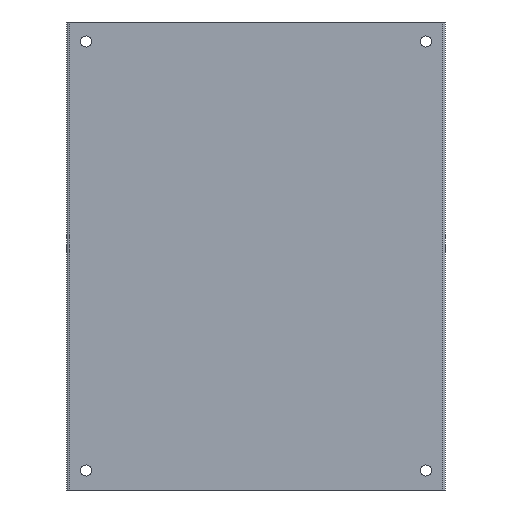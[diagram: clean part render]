
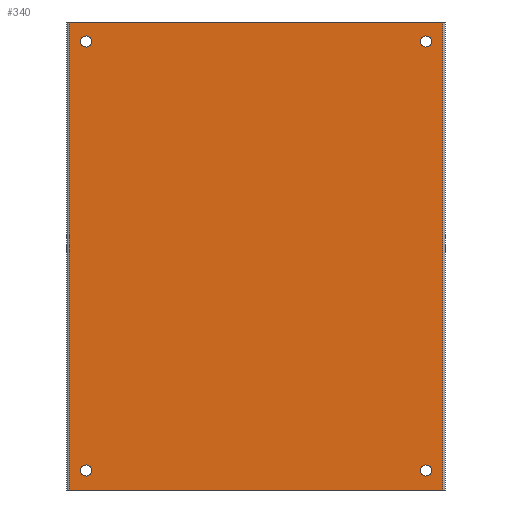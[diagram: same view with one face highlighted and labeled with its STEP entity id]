
A CAD part, front view. The second image highlights one B-rep face of the part: STEP entity #340.
In plain terms, the highlighted planar face has unit normal (0, -1, 0).
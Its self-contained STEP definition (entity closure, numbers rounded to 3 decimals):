
#40=CIRCLE('',#374,6.35);
#41=CIRCLE('',#375,6.35);
#42=CIRCLE('',#376,6.35);
#43=CIRCLE('',#377,6.35);
#72=ORIENTED_EDGE('',*,*,#160,.F.);
#73=ORIENTED_EDGE('',*,*,#161,.F.);
#74=ORIENTED_EDGE('',*,*,#162,.F.);
#75=ORIENTED_EDGE('',*,*,#163,.F.);
#76=ORIENTED_EDGE('',*,*,#154,.T.);
#77=ORIENTED_EDGE('',*,*,#164,.T.);
#78=ORIENTED_EDGE('',*,*,#136,.T.);
#79=ORIENTED_EDGE('',*,*,#165,.T.);
#136=EDGE_CURVE('',#180,#181,#212,.T.);
#154=EDGE_CURVE('',#199,#198,#224,.T.);
#160=EDGE_CURVE('',#204,#204,#40,.T.);
#161=EDGE_CURVE('',#205,#205,#41,.T.);
#162=EDGE_CURVE('',#206,#206,#42,.T.);
#163=EDGE_CURVE('',#207,#207,#43,.T.);
#164=EDGE_CURVE('',#198,#180,#228,.T.);
#165=EDGE_CURVE('',#181,#199,#229,.T.);
#180=VERTEX_POINT('',#501);
#181=VERTEX_POINT('',#502);
#198=VERTEX_POINT('',#537);
#199=VERTEX_POINT('',#539);
#204=VERTEX_POINT('',#551);
#205=VERTEX_POINT('',#553);
#206=VERTEX_POINT('',#555);
#207=VERTEX_POINT('',#557);
#212=LINE('',#500,#240);
#224=LINE('',#538,#252);
#228=LINE('',#558,#256);
#229=LINE('',#559,#257);
#240=VECTOR('',#402,1000.);
#252=VECTOR('',#428,1000.);
#256=VECTOR('',#446,1000.);
#257=VECTOR('',#447,1000.);
#270=EDGE_LOOP('',(#72));
#271=EDGE_LOOP('',(#73));
#272=EDGE_LOOP('',(#74));
#273=EDGE_LOOP('',(#75));
#274=EDGE_LOOP('',(#76,#77,#78,#79));
#300=FACE_BOUND('',#270,.T.);
#301=FACE_BOUND('',#271,.T.);
#302=FACE_BOUND('',#272,.T.);
#303=FACE_BOUND('',#273,.T.);
#304=FACE_BOUND('',#274,.T.);
#330=PLANE('',#373);
#340=ADVANCED_FACE('',(#300,#301,#302,#303,#304),#330,.F.);
#373=AXIS2_PLACEMENT_3D('',#549,#436,#437);
#374=AXIS2_PLACEMENT_3D('',#550,#438,#439);
#375=AXIS2_PLACEMENT_3D('',#552,#440,#441);
#376=AXIS2_PLACEMENT_3D('',#554,#442,#443);
#377=AXIS2_PLACEMENT_3D('',#556,#444,#445);
#402=DIRECTION('',(1.,0.,0.));
#428=DIRECTION('',(-1.,0.,0.));
#436=DIRECTION('',(0.,1.,0.));
#437=DIRECTION('',(0.,0.,1.));
#438=DIRECTION('',(0.,-1.,0.));
#439=DIRECTION('',(1.,0.,0.));
#440=DIRECTION('',(0.,-1.,0.));
#441=DIRECTION('',(1.,0.,0.));
#442=DIRECTION('',(0.,-1.,0.));
#443=DIRECTION('',(1.,0.,0.));
#444=DIRECTION('',(0.,-1.,0.));
#445=DIRECTION('',(1.,0.,0.));
#446=DIRECTION('',(0.,0.,-1.));
#447=DIRECTION('',(0.,0.,1.));
#500=CARTESIAN_POINT('',(-215.9,0.,-266.7));
#501=CARTESIAN_POINT('',(-212.725,0.,-266.7));
#502=CARTESIAN_POINT('',(212.725,0.,-266.7));
#537=CARTESIAN_POINT('',(-212.725,0.,266.7));
#538=CARTESIAN_POINT('',(215.9,0.,266.7));
#539=CARTESIAN_POINT('',(212.725,0.,266.7));
#549=CARTESIAN_POINT('',(-215.9,0.,266.7));
#550=CARTESIAN_POINT('',(-193.675,0.,244.475));
#551=CARTESIAN_POINT('',(-187.325,0.,244.475));
#552=CARTESIAN_POINT('',(-193.675,0.,-244.475));
#553=CARTESIAN_POINT('',(-187.325,0.,-244.475));
#554=CARTESIAN_POINT('',(193.675,0.,-244.475));
#555=CARTESIAN_POINT('',(200.025,0.,-244.475));
#556=CARTESIAN_POINT('',(193.675,0.,244.475));
#557=CARTESIAN_POINT('',(200.025,0.,244.475));
#558=CARTESIAN_POINT('',(-212.725,0.,266.7));
#559=CARTESIAN_POINT('',(212.725,0.,-266.7));
